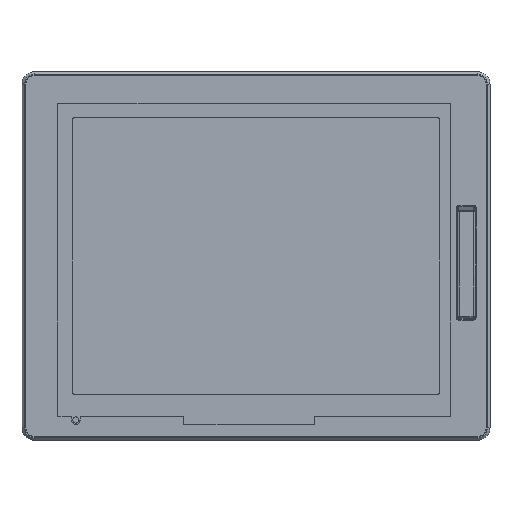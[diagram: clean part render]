
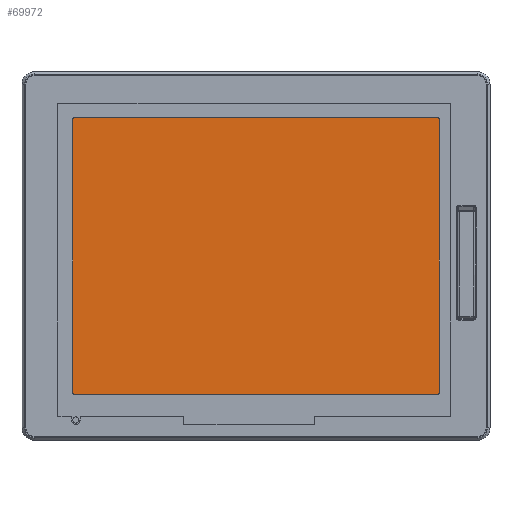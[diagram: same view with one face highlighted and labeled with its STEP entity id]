
A CAD part, top view. The second image highlights one B-rep face of the part: STEP entity #69972.
In plain terms, the highlighted planar face has unit normal (0, 0, 1).
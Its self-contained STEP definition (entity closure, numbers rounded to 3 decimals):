
#1358 = CARTESIAN_POINT ( 'NONE',  ( 242.05, 26.85, 64.033 ) ) ;
#2854 = CARTESIAN_POINT ( 'NONE',  ( 30.45, 26.85, 64.033 ) ) ;
#6186 = VERTEX_POINT ( 'NONE', #98788 ) ;
#6761 = DIRECTION ( 'NONE',  ( 0., 0., 1. ) ) ;
#6853 = LINE ( 'NONE', #15444, #102075 ) ;
#7891 = VERTEX_POINT ( 'NONE', #2854 ) ;
#9316 = LINE ( 'NONE', #42080, #59815 ) ;
#10676 = DIRECTION ( 'NONE',  ( 0., 0., 1. ) ) ;
#12212 = DIRECTION ( 'NONE',  ( 0., -1., 0. ) ) ;
#14569 = CIRCLE ( 'NONE', #36894, 1. ) ;
#14993 = LINE ( 'NONE', #23594, #32656 ) ;
#15444 = CARTESIAN_POINT ( 'NONE',  ( 243.05, 187.65, 64.033 ) ) ;
#15453 = VECTOR ( 'NONE', #12212, 1000. ) ;
#16510 = CIRCLE ( 'NONE', #86828, 1. ) ;
#17462 = FACE_OUTER_BOUND ( 'NONE', #34011, .T. ) ;
#18752 = AXIS2_PLACEMENT_3D ( 'NONE', #33569, #6761, #49157 ) ;
#23594 = CARTESIAN_POINT ( 'NONE',  ( 29.45, 26.85, 64.033 ) ) ;
#24480 = ORIENTED_EDGE ( 'NONE', *, *, #45302, .T. ) ;
#24992 = PLANE ( 'NONE',  #18752 ) ;
#27982 = DIRECTION ( 'NONE',  ( -1., 0., 0. ) ) ;
#30276 = CARTESIAN_POINT ( 'NONE',  ( 243.05, 27.85, 64.033 ) ) ;
#32656 = VECTOR ( 'NONE', #89132, 1000. ) ;
#33569 = CARTESIAN_POINT ( 'NONE',  ( 136.25, 107.25, 64.033 ) ) ;
#34011 = EDGE_LOOP ( 'NONE', ( #77498, #58477, #86301, #57319, #60871, #68051, #24480, #63657 ) ) ;
#35851 = EDGE_CURVE ( 'NONE', #61582, #61624, #9316, .T. ) ;
#36894 = AXIS2_PLACEMENT_3D ( 'NONE', #45025, #10676, #92360 ) ;
#38952 = CARTESIAN_POINT ( 'NONE',  ( 30.45, 27.85, 64.033 ) ) ;
#39755 = VERTEX_POINT ( 'NONE', #88189 ) ;
#42080 = CARTESIAN_POINT ( 'NONE',  ( 243.05, 26.85, 64.033 ) ) ;
#43695 = EDGE_CURVE ( 'NONE', #94651, #61582, #44350, .T. ) ;
#44350 = CIRCLE ( 'NONE', #104388, 1. ) ;
#45025 = CARTESIAN_POINT ( 'NONE',  ( 242.05, 186.65, 64.033 ) ) ;
#45302 = EDGE_CURVE ( 'NONE', #39755, #58307, #93341, .T. ) ;
#49157 = DIRECTION ( 'NONE',  ( 1., 0., 0. ) ) ;
#53004 = CARTESIAN_POINT ( 'NONE',  ( 243.05, 186.65, 64.033 ) ) ;
#55581 = DIRECTION ( 'NONE',  ( 0., 0., 1. ) ) ;
#56648 = AXIS2_PLACEMENT_3D ( 'NONE', #38952, #55581, #105534 ) ;
#57319 = ORIENTED_EDGE ( 'NONE', *, *, #89030, .T. ) ;
#58307 = VERTEX_POINT ( 'NONE', #105453 ) ;
#58477 = ORIENTED_EDGE ( 'NONE', *, *, #43695, .T. ) ;
#59796 = DIRECTION ( 'NONE',  ( 1., 0., 0. ) ) ;
#59815 = VECTOR ( 'NONE', #99569, 1000. ) ;
#60871 = ORIENTED_EDGE ( 'NONE', *, *, #62702, .T. ) ;
#61582 = VERTEX_POINT ( 'NONE', #30276 ) ;
#61624 = VERTEX_POINT ( 'NONE', #53004 ) ;
#62702 = EDGE_CURVE ( 'NONE', #6186, #83643, #6853, .T. ) ;
#63657 = ORIENTED_EDGE ( 'NONE', *, *, #80133, .T. ) ;
#68051 = ORIENTED_EDGE ( 'NONE', *, *, #72527, .T. ) ;
#69972 = ADVANCED_FACE ( 'NONE', ( #17462 ), #24992, .T. ) ;
#72527 = EDGE_CURVE ( 'NONE', #83643, #39755, #16510, .T. ) ;
#75739 = DIRECTION ( 'NONE',  ( 1., 0., 0. ) ) ;
#77498 = ORIENTED_EDGE ( 'NONE', *, *, #98107, .T. ) ;
#80133 = EDGE_CURVE ( 'NONE', #58307, #7891, #99566, .T. ) ;
#83643 = VERTEX_POINT ( 'NONE', #106345 ) ;
#86301 = ORIENTED_EDGE ( 'NONE', *, *, #35851, .T. ) ;
#86828 = AXIS2_PLACEMENT_3D ( 'NONE', #100669, #102260, #59796 ) ;
#88189 = CARTESIAN_POINT ( 'NONE',  ( 29.45, 186.65, 64.033 ) ) ;
#89030 = EDGE_CURVE ( 'NONE', #61624, #6186, #14569, .T. ) ;
#89132 = DIRECTION ( 'NONE',  ( 1., 0., 0. ) ) ;
#92360 = DIRECTION ( 'NONE',  ( 1., 0., 0. ) ) ;
#92400 = CARTESIAN_POINT ( 'NONE',  ( 242.05, 27.85, 64.033 ) ) ;
#93341 = LINE ( 'NONE', #100356, #15453 ) ;
#93973 = DIRECTION ( 'NONE',  ( 0., 0., 1. ) ) ;
#94651 = VERTEX_POINT ( 'NONE', #1358 ) ;
#98107 = EDGE_CURVE ( 'NONE', #7891, #94651, #14993, .T. ) ;
#98788 = CARTESIAN_POINT ( 'NONE',  ( 242.05, 187.65, 64.033 ) ) ;
#99566 = CIRCLE ( 'NONE', #56648, 1. ) ;
#99569 = DIRECTION ( 'NONE',  ( 0., 1., 0. ) ) ;
#100356 = CARTESIAN_POINT ( 'NONE',  ( 29.45, 187.65, 64.033 ) ) ;
#100669 = CARTESIAN_POINT ( 'NONE',  ( 30.45, 186.65, 64.033 ) ) ;
#102075 = VECTOR ( 'NONE', #27982, 1000. ) ;
#102260 = DIRECTION ( 'NONE',  ( 0., 0., 1. ) ) ;
#104388 = AXIS2_PLACEMENT_3D ( 'NONE', #92400, #93973, #75739 ) ;
#105453 = CARTESIAN_POINT ( 'NONE',  ( 29.45, 27.85, 64.033 ) ) ;
#105534 = DIRECTION ( 'NONE',  ( 1., 0., 0. ) ) ;
#106345 = CARTESIAN_POINT ( 'NONE',  ( 30.45, 187.65, 64.033 ) ) ;
